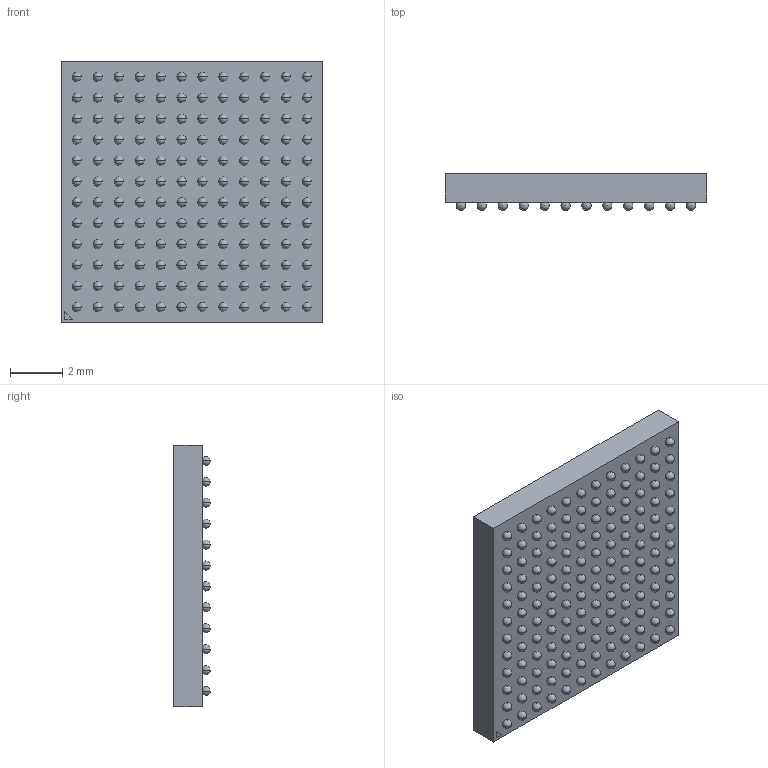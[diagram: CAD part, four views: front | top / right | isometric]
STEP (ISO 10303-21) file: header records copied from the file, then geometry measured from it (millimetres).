
FILE_DESCRIPTION (( 'STEP AP214' ), '1' );
FILE_NAME ('ATSAM4E16EB-CNR.STEP', '2026-01-19T16:08:42', ( '' ), ( '' ), 'SwSTEP 2.0', 'SolidWorks 2021', '' );
FILE_SCHEMA (( 'AUTOMOTIVE_DESIGN' ));
Length unit declared in the file: millimetre
Products named in the file (1): ATSAM4E16EB-CNR
Bounding box: 10 x 1.4 x 10 mm (x, y, z)
Volume: 113.1 mm3; surface area: 300.4 mm2
Topology: 147 solids, 147 shells, 454 faces, 1338 edges, 892 vertices
Faces by surface type: sphere 288, plane 162, cylinder 4
Entity records: 11406 total; most frequent: DIRECTION 2112, CARTESIAN_POINT 1533, ORIENTED_EDGE 1236, AXIS2_PLACEMENT_3D 1039, EDGE_CURVE 618, CIRCLE 584, VERTEX_POINT 460, EDGE_LOOP 456
